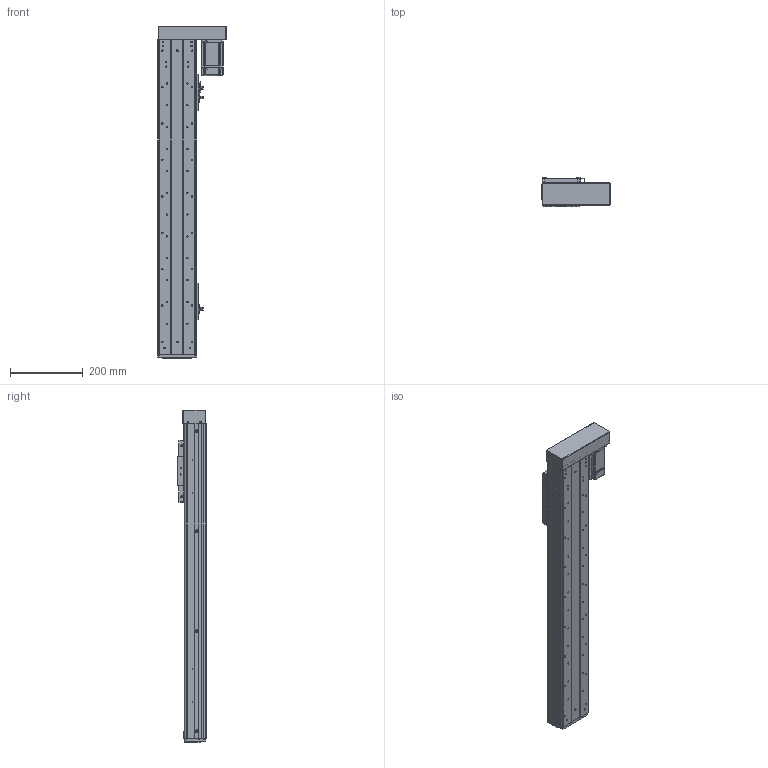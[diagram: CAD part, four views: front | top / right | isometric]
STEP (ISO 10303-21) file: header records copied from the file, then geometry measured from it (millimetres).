
FILE_DESCRIPTION (( 'STEP AP203' ), '1' );
FILE_NAME ('RY100FS-L1620-300-RK(15双轨).SLDASM_600.step', '2021-03-02T07:46:15', ( '盈信电脑' ), ( '东莞市道滘镇水果街19号' ), 'SwSTEP 2.0', 'SolidWorks 2012', '' );
FILE_SCHEMA (( 'CONFIG_CONTROL_DESIGN' ));
Products named in the file (21): RY100FS-L1620-300-RK(15邧寢).SLDASM_600; 蚥薯蝶紫輸; RY100FS-15邧寢蛌殏萇儂啣; RY100FS-15邧寢蛌殏萇儂欶; 1; RY100FS-双轨螺母座(16丝杆）; RY100FS-15邧寢蛌殏萇儂釱; 滅袉蝶14-35; RY80俋离覜茼え; 覜茼ん672; RY100F-詩湍揤踡輸; RY100F-詩湍揤踡謫; 672嫖萇羲壽假蚾釱; RY100F-詩湍幗謫粣; RY100F-綴裔啣; 棠沺沭; RY100FS-300-RK15邧寢祥凄詩湍_600; RY100FS-双轨铝滑块(上板）; RY100F-滅鳥裔啣; RY100FS-300-RK15絳寢倰第奻裔啣_600; RY100FS-300-RK15絳寢倰第菁釱_600
Assembly tree (29 placements, depth 2):
  RY100FS-L1620-300-RK(15邧寢).SLDASM_600
    RY100FS-300-RK15絳寢倰第菁釱_600
    RY100FS-300-RK15絳寢倰第奻裔啣_600  x2
    RY100FS-300-RK15邧寢祥凄詩湍_600
    RY100FS-双轨铝滑块(上板）
    RY100F-滅鳥裔啣
    棠沺沭  x2
    RY100F-詩湍幗謫粣
    RY100F-詩湍揤踡謫  x2
    RY100F-綴裔啣
    672嫖萇羲壽假蚾釱  x2
    RY80俋离覜茼え  x2
    覜茼ん672  x3
    RY100F-詩湍揤踡輸  x2
    RY100FS-双轨螺母座(16丝杆）
    RY100FS-15邧寢蛌殏萇儂釱
    滅袉蝶14-35
    1
    RY100FS-15邧寢蛌殏萇儂啣
    RY100FS-15邧寢蛌殏萇儂欶
    蚥薯蝶紫輸  x2
Bounding box: 189.5 x 78.5 x 912 mm (x, y, z)
Volume: 2308767.2 mm3; surface area: 976863.4 mm2
Topology: 29 solids, 29 shells, 2238 faces, 6067 edges, 3916 vertices
Faces by surface type: plane 1027, cylinder 1010, cone 168, bspline 33
Entity records: 64016 total; most frequent: CARTESIAN_POINT 13443, DIRECTION 10090, ORIENTED_EDGE 9942, EDGE_CURVE 4971, AXIS2_PLACEMENT_3D 3570, VERTEX_POINT 3264, LINE 2950, VECTOR 2950
